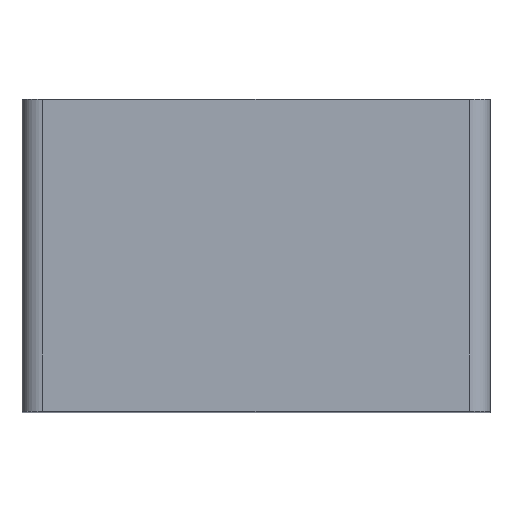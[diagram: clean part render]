
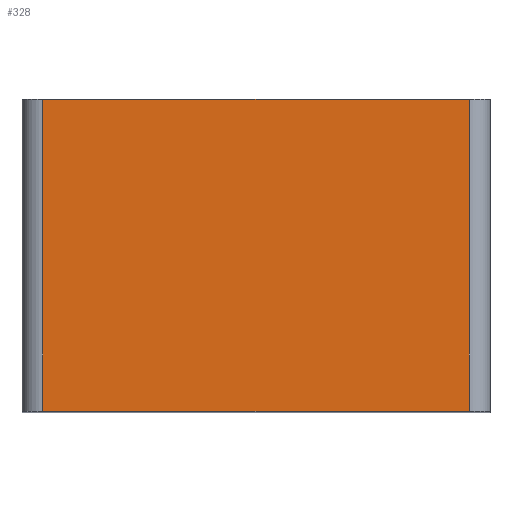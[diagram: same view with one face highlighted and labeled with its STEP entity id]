
A CAD part, top view. The second image highlights one B-rep face of the part: STEP entity #328.
In plain terms, the highlighted planar face has unit normal (0, 0, 1).
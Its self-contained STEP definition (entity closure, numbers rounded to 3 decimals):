
#25=PLANE('',#371);
#37=FACE_OUTER_BOUND('',#55,.T.);
#55=EDGE_LOOP('',(#234,#235,#236,#237));
#80=LINE('',#506,#111);
#81=LINE('',#509,#112);
#82=LINE('',#511,#113);
#83=LINE('',#512,#114);
#111=VECTOR('',#409,10.);
#112=VECTOR('',#412,10.);
#113=VECTOR('',#413,10.);
#114=VECTOR('',#414,10.);
#155=VERTEX_POINT('',#499);
#158=VERTEX_POINT('',#504);
#159=VERTEX_POINT('',#508);
#160=VERTEX_POINT('',#510);
#188=EDGE_CURVE('',#158,#155,#80,.T.);
#189=EDGE_CURVE('',#158,#159,#81,.T.);
#190=EDGE_CURVE('',#160,#159,#82,.T.);
#191=EDGE_CURVE('',#155,#160,#83,.T.);
#234=ORIENTED_EDGE('',*,*,#188,.F.);
#235=ORIENTED_EDGE('',*,*,#189,.T.);
#236=ORIENTED_EDGE('',*,*,#190,.F.);
#237=ORIENTED_EDGE('',*,*,#191,.F.);
#328=ADVANCED_FACE('',(#37),#25,.T.);
#371=AXIS2_PLACEMENT_3D('',#507,#410,#411);
#409=DIRECTION('',(0.,1.,0.));
#410=DIRECTION('center_axis',(0.,0.,1.));
#411=DIRECTION('ref_axis',(1.,0.,0.));
#412=DIRECTION('',(1.,0.,0.));
#413=DIRECTION('',(0.,-1.,0.));
#414=DIRECTION('',(1.,0.,0.));
#499=CARTESIAN_POINT('',(-20.5,30.,45.));
#504=CARTESIAN_POINT('',(-20.5,0.,45.));
#506=CARTESIAN_POINT('',(-20.5,0.,45.));
#507=CARTESIAN_POINT('Origin',(-22.5,0.,45.));
#508=CARTESIAN_POINT('',(20.5,0.,45.));
#509=CARTESIAN_POINT('',(-22.5,0.,45.));
#510=CARTESIAN_POINT('',(20.5,30.,45.));
#511=CARTESIAN_POINT('',(20.5,0.,45.));
#512=CARTESIAN_POINT('',(-22.5,30.,45.));
